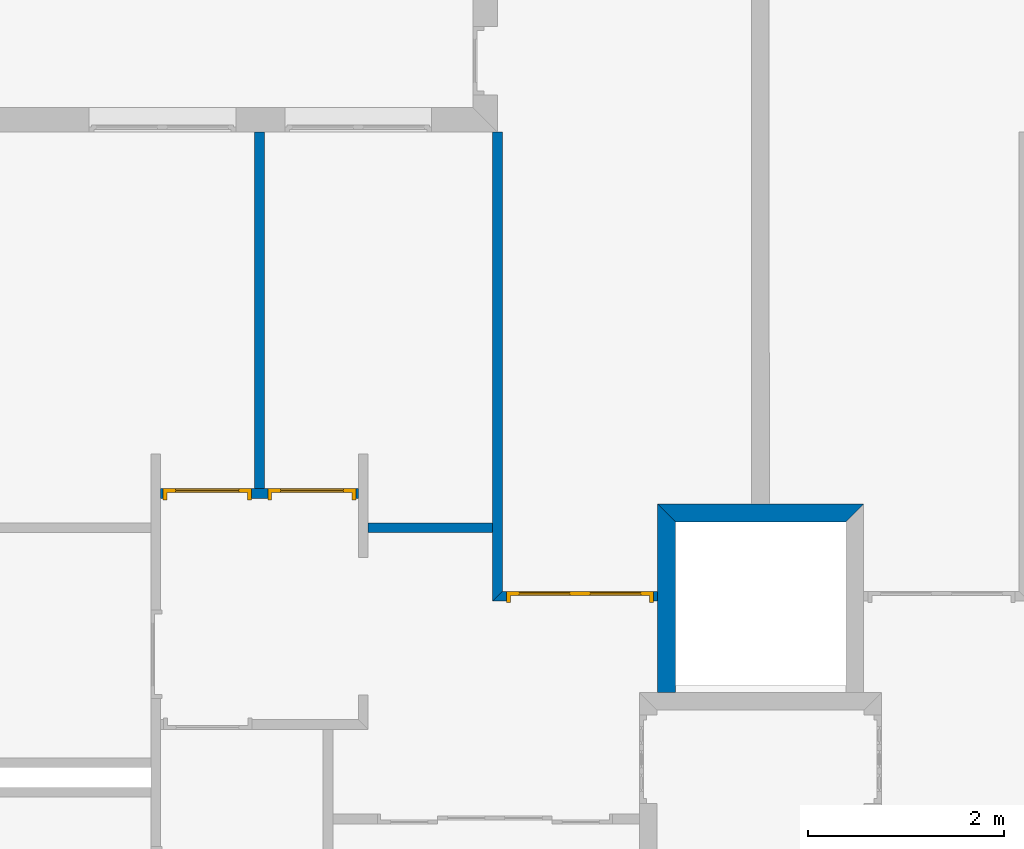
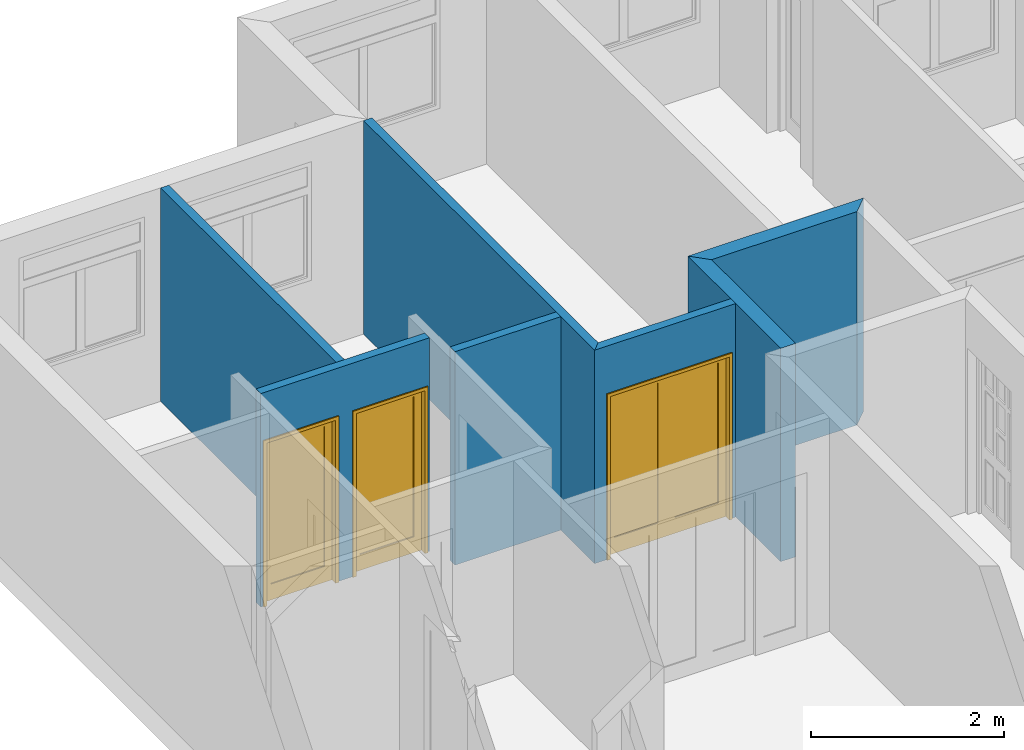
# One storey, part 9 of 12: 7 walls, 3 doors, 3 openings.
"""IFC2X3 building model written with IfcOpenShell, lengths in metres."""

import ifcopenshell
import ifcopenshell.guid

model = None  # the IFC model being written
_history = None  # IfcOwnerHistory: only IFC2X3 demands one
_inside = {}  # id of a spatial element -> (the spatial element, [elements in it])
_under = {}  # id of a project, library or spatial element -> (it, [spatial elements below it])
_declared = {}  # id of a project -> (the project, [libraries it declares])
_typed = {}  # id of a type object -> (the type object, [elements of that type])
_made_of = {}  # id of a material, layer set ... -> (it, [elements and type objects made of it])


def new_model(schema):
    """Start an empty IFC model of exactly this schema.

    Asked for "IFC4X3", IfcOpenShell would pick the latest addendum, in which some entities
    have other attributes; the version numbers below select the first issue.
    IFC2X3 requires an IfcOwnerHistory on every rooted entity: one is made here for all.
    """
    global model, _history
    if schema == "IFC4X3":
        model = ifcopenshell.file(schema_version=(4, 3, 0, 0))
    else:
        model = ifcopenshell.file(schema=schema)
    _inside.clear()
    _under.clear()
    _declared.clear()
    _typed.clear()
    _made_of.clear()
    _history = None
    if model.schema == "IFC2X3":
        org = make("IfcOrganization", Name="unknown")
        user = make(
            "IfcPersonAndOrganization",
            ThePerson=make("IfcPerson", FamilyName="unknown"),
            TheOrganization=org,
        )
        app = make(
            "IfcApplication",
            ApplicationDeveloper=org,
            Version="unknown",
            ApplicationFullName="unknown",
            ApplicationIdentifier="unknown",
        )
        _history = make(
            "IfcOwnerHistory",
            OwningUser=user,
            OwningApplication=app,
            ChangeAction="ADDED",
            CreationDate=0,
        )
    return model


def make(cls, **values):
    """One entity of the class cls with the attributes given. An attribute that is None is left unset."""
    return model.create_entity(
        cls, **{name: value for name, value in values.items() if value is not None}
    )


def entity(cls, *values):
    """Any entity or typed value of the class cls, its attributes in the order of the schema. None: left unset."""
    e = model.create_entity(cls)
    for i, value in enumerate(values):
        if value is not None:
            e[i] = value
    return e


def rooted(cls, **values):
    """An entity with a GlobalId (a new one), such as an element, a storey or a relation."""
    return make(cls, GlobalId=ifcopenshell.guid.new(), OwnerHistory=_history, **values)


def si_unit(unit_type, name, prefix=None):
    """IfcSIUnit, for example si_unit("LENGTHUNIT", "METRE", prefix="MILLI")."""
    return make("IfcSIUnit", UnitType=unit_type, Prefix=prefix, Name=name)


def converted_unit(unit_type, name, factor, base, dimensions=None, offset=None):
    """IfcConversionBasedUnit, such as the inch: factor (a typed value) times the base unit."""
    return make(
        "IfcConversionBasedUnit"
        if offset is None
        else "IfcConversionBasedUnitWithOffset",
        ConversionOffset=offset,
        Dimensions=None
        if dimensions is None
        else entity("IfcDimensionalExponents", *dimensions),
        UnitType=unit_type,
        Name=name,
        ConversionFactor=make(
            "IfcMeasureWithUnit", ValueComponent=factor, UnitComponent=base
        ),
    )


def assignment(units):
    """IfcUnitAssignment: the units of a project."""
    return None if units is None else make("IfcUnitAssignment", Units=units)


def point(xyz):
    """IfcCartesianPoint."""
    return None if xyz is None else make("IfcCartesianPoint", Coordinates=xyz)


def direction(xyz):
    """IfcDirection."""
    return None if xyz is None else make("IfcDirection", DirectionRatios=xyz)


def frame(location, z_axis=None, x_axis=None):
    """IfcAxis2Placement3D, a coordinate frame: its origin and axes. An axis left out is left unset."""
    return make(
        "IfcAxis2Placement3D",
        Location=point(location),
        Axis=direction(z_axis),
        RefDirection=direction(x_axis),
    )


def frame_2d(location, x_axis=None):
    """IfcAxis2Placement2D, a coordinate frame in the plane: its origin and x axis."""
    return make(
        "IfcAxis2Placement2D", Location=point(location), RefDirection=direction(x_axis)
    )


def origin_with_axes():
    """The frame at (0, 0, 0) with the z axis (0, 0, 1) and the x axis (1, 0, 0) written out."""
    return frame((0.0, 0.0, 0.0), z_axis=(0.0, 0.0, 1.0), x_axis=(1.0, 0.0, 0.0))


def place(relative_to, where):
    """IfcLocalPlacement: puts the frame where relative to a parent placement (None: the world)."""
    return make(
        "IfcLocalPlacement", PlacementRelTo=relative_to, RelativePlacement=where
    )


def context(
    kind, dimensions, precision=None, world=None, true_north=None, identifier=None
):
    """IfcGeometricRepresentationContext, for example the 3D "Model" context."""
    return make(
        "IfcGeometricRepresentationContext",
        ContextIdentifier=identifier,
        ContextType=kind,
        CoordinateSpaceDimension=dimensions,
        Precision=precision,
        WorldCoordinateSystem=world,
        TrueNorth=true_north,
    )


def project(units=None, contexts=None):
    """IfcProject with its units and contexts."""
    return rooted(
        "IfcProject",
        Name="project",
        RepresentationContexts=contexts,
        UnitsInContext=assignment(units),
    )


def spatial(cls, under=None, at=None, **own):
    """A site, building, storey or space (cls), placed at a placement, below another one or the project."""
    s = rooted(cls, ObjectPlacement=at, **own)
    if under is not None:
        _under.setdefault(under.id(), (under, []))[1].append(s)
    return s


def polyline(points):
    """IfcPolyline through the points."""
    return make("IfcPolyline", Points=[point(p) for p in points])


def profile(cls, at=None, kind="AREA", **sizes):
    """A parametric profile (cls). Its sizes go by their IFC names, for example OverallWidth=200.0."""
    return make(cls, ProfileType=kind, Position=at, **sizes)


def rectangle(**sizes):
    """IfcRectangleProfileDef."""
    return profile("IfcRectangleProfileDef", **sizes)


def outline(outer, holes=None, kind="AREA"):
    """IfcArbitraryClosedProfileDef: a profile drawn as a closed curve; with holes, ...WithVoids."""
    if holes is None:
        return make("IfcArbitraryClosedProfileDef", ProfileType=kind, OuterCurve=outer)
    return make(
        "IfcArbitraryProfileDefWithVoids",
        ProfileType=kind,
        OuterCurve=outer,
        InnerCurves=holes,
    )


def extrude(swept, where, along, depth):
    """IfcExtrudedAreaSolid: the profile swept, set in the frame where, extruded along a direction by depth."""
    return make(
        "IfcExtrudedAreaSolid",
        SweptArea=swept,
        Position=where,
        ExtrudedDirection=direction(along),
        Depth=depth,
    )


def faces_of(points, faces, orient=None, outer=None):
    """IfcFace entities. A face is a list of loops; a loop is a list of indices into points, from 0.

    orient and outer hold one flag for each loop. By default every Orientation is true, the
    first loop of a face is its IfcFaceOuterBound and the others are IfcFaceBound.
    """
    made = []
    for i, loops in enumerate(faces):
        bounds = []
        for j, loop in enumerate(loops):
            is_outer = j == 0 if outer is None else outer[i][j]
            bounds.append(
                make(
                    "IfcFaceOuterBound" if is_outer else "IfcFaceBound",
                    Bound=make("IfcPolyLoop", Polygon=[points[k] for k in loop]),
                    Orientation=True if orient is None else orient[i][j],
                )
            )
        made.append(make("IfcFace", Bounds=bounds))
    return made


def faceted_brep(points, faces, orient=None, outer=None, voids=None):
    """IfcFacetedBrep: a solid bounded by flat faces; with voids (closed shells), ...WithVoids."""
    shared = [point(p) for p in points]
    hull = make("IfcClosedShell", CfsFaces=faces_of(shared, faces, orient, outer))
    if voids is None:
        return make("IfcFacetedBrep", Outer=hull)
    return make(
        "IfcFacetedBrepWithVoids",
        Outer=hull,
        Voids=[
            make(cls, CfsFaces=faces_of(shared, fs, o, b)) for cls, fs, o, b in voids
        ],
    )


def shape(context_of_items, identifier, shape_type, items):
    """IfcShapeRepresentation: the items that make up one representation, for example the "Body"."""
    return make(
        "IfcShapeRepresentation",
        ContextOfItems=context_of_items,
        RepresentationIdentifier=identifier,
        RepresentationType=shape_type,
        Items=items,
    )


def source(mapping_origin, context_of_items, identifier, shape_type, items):
    """IfcRepresentationMap: a shape defined once, which mapped items show again and again."""
    return make(
        "IfcRepresentationMap",
        MappingOrigin=mapping_origin,
        MappedRepresentation=shape(context_of_items, identifier, shape_type, items),
    )


def transform(
    local_origin,
    x_axis=None,
    y_axis=None,
    z_axis=None,
    scale=None,
    scale2=None,
    scale3=None,
    uniform=True,
):
    """IfcCartesianTransformationOperator3D, or its non-uniform kind. x_axis, y_axis, z_axis: its Axis1, 2, 3."""
    if uniform:
        return make(
            "IfcCartesianTransformationOperator3D",
            Axis1=direction(x_axis),
            Axis2=direction(y_axis),
            LocalOrigin=point(local_origin),
            Scale=scale,
            Axis3=direction(z_axis),
        )
    return make(
        "IfcCartesianTransformationOperator3DnonUniform",
        Axis1=direction(x_axis),
        Axis2=direction(y_axis),
        LocalOrigin=point(local_origin),
        Scale=scale,
        Axis3=direction(z_axis),
        Scale2=scale2,
        Scale3=scale3,
    )


def mapped(mapping_source, mapping_target):
    """IfcMappedItem: shows the shape of a source again, moved by a transform."""
    return make(
        "IfcMappedItem", MappingSource=mapping_source, MappingTarget=mapping_target
    )


def material(Name=None, Category=None):
    """IfcMaterial."""
    return make("IfcMaterial", Name=Name, Category=Category)


def layer(
    of_material, thickness, ventilated=None, Name=None, Category=None, Priority=None
):
    """IfcMaterialLayer: one layer of a wall or slab, of a material (None: an air gap)."""
    return make(
        "IfcMaterialLayer",
        Material=of_material,
        LayerThickness=thickness,
        IsVentilated=ventilated,
        Name=Name,
        Category=Category,
        Priority=Priority,
    )


def layer_set(layers, Name=None):
    """IfcMaterialLayerSet."""
    return make("IfcMaterialLayerSet", MaterialLayers=layers, LayerSetName=Name)


def layer_usage(for_layer_set, set_direction, sense, offset, extent=None):
    """IfcMaterialLayerSetUsage: how a layer set lies in its element."""
    return make(
        "IfcMaterialLayerSetUsage",
        ForLayerSet=for_layer_set,
        LayerSetDirection=set_direction,
        DirectionSense=sense,
        OffsetFromReferenceLine=offset,
        ReferenceExtent=extent,
    )


def made_of(thing, what):
    """Note that an element or type object is made of a material, layer set ...; save() writes the relation."""
    if what is not None:
        _made_of.setdefault(what.id(), (what, []))[1].append(thing)
    return thing


def type_object(cls, material=None, **own):
    """A type object (cls), such as IfcWallType, which elements share."""
    return made_of(rooted(cls, **own), material)


def element(
    cls,
    number,
    at=None,
    inside=None,
    cuts=None,
    type_object=None,
    material=None,
    context=None,
    identifier="Body",
    shape_type=None,
    held_by="IfcProductDefinitionShape",
    body=None,
    shapes=None,
    **own,
):
    """One element of the class cls, such as IfcWall. Its Tag is "e" and its number.

    at: its placement. inside: the storey or other place that contains it. cuts: it is an
    opening in that element (IfcRelVoidsElement). A single representation is given by context,
    identifier, shape_type and body (its items); several are given by shapes. held_by: the class
    of the entity that holds the representations. save() writes the other relations.
    """
    e = rooted(cls, Tag="e%d" % number, ObjectPlacement=at, **own)
    if body is not None:
        shapes = [shape(context, identifier, shape_type, body)]
    if shapes is not None:
        e.Representation = make(held_by, Representations=shapes)
    if inside is not None:
        _inside.setdefault(inside.id(), (inside, []))[1].append(e)
    if cuts is not None:
        rooted(
            "IfcRelVoidsElement", RelatingBuildingElement=cuts, RelatedOpeningElement=e
        )
    if type_object is not None:
        _typed.setdefault(type_object.id(), (type_object, []))[1].append(e)
    return made_of(e, material)


def fill(opening, filler):
    """IfcRelFillsElement: the door or window that sits in an opening."""
    return rooted(
        "IfcRelFillsElement",
        RelatingOpeningElement=opening,
        RelatedBuildingElement=filler,
    )


def aggregate(whole, parts):
    """IfcRelAggregates: a whole, such as a stair, and the parts it consists of."""
    return rooted("IfcRelAggregates", RelatingObject=whole, RelatedObjects=parts)


def save(model, path):
    """Write the relations noted so far, then the file.

    IfcRelAggregates (storeys below a building ...), IfcRelContainedInSpatialStructure (elements
    in a storey), IfcRelDefinesByType, IfcRelAssociatesMaterial and IfcRelDeclares: one each for
    every whole, place, type object, material and project.
    """
    for whole, parts in _under.values():
        aggregate(whole, parts)
    for where, things in _inside.values():
        rooted(
            "IfcRelContainedInSpatialStructure",
            RelatedElements=things,
            RelatingStructure=where,
        )
    for kind, things in _typed.values():
        rooted("IfcRelDefinesByType", RelatedObjects=things, RelatingType=kind)
    for what, things in _made_of.values():
        rooted("IfcRelAssociatesMaterial", RelatedObjects=things, RelatingMaterial=what)
    for by, libraries in _declared.values():
        rooted("IfcRelDeclares", RelatingContext=by, RelatedDefinitions=libraries)
    model.write(path)


model = new_model("IFC2X3")

# Units and contexts
context_of_model = context(None, 3, precision=1e-05, world=origin_with_axes(), true_north=direction((6.123234e-17, 1.0)))
plan_context = context("Plan", 3, precision=1e-05, world=origin_with_axes(), true_north=direction((6.123234e-17, 1.0)))
model_context = context("Model", 3, precision=1e-05, world=origin_with_axes(), true_north=direction((6.123234e-17, 1.0)))
ifc_project = project(units=[si_unit("LENGTHUNIT", "METRE"), si_unit("AREAUNIT", "SQUARE_METRE"), si_unit("VOLUMEUNIT", "CUBIC_METRE"), converted_unit("PLANEANGLEUNIT", "DEGREE", entity("IfcPlaneAngleMeasure", 0.017453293), si_unit("PLANEANGLEUNIT", "RADIAN"), dimensions=[0, 0, 0, 0, 0, 0, 0]), si_unit("SOLIDANGLEUNIT", "STERADIAN"), si_unit("MASSUNIT", "GRAM"), si_unit("TIMEUNIT", "SECOND"), si_unit("THERMODYNAMICTEMPERATUREUNIT", "DEGREE_CELSIUS"), si_unit("LUMINOUSINTENSITYUNIT", "LUMEN")], contexts=[context_of_model, plan_context, model_context])

# Site, building, storey
site_placement = place(None, origin_with_axes())
site = spatial("IfcSite", under=ifc_project, at=site_placement, Name="Por defecto Sitio", CompositionType="ELEMENT")
building_placement = place(site_placement, origin_with_axes())
building = spatial("IfcBuilding", under=site, at=building_placement, Name="Por defecto Edificio", CompositionType="ELEMENT")
storey_placement = place(building_placement, frame((0.0, 0.0, 10.2), z_axis=(0.0, 0.0, 1.0), x_axis=(1.0, 0.0, 0.0)))
storey = spatial("IfcBuildingStorey", under=building, at=storey_placement, Name="Tercera", CompositionType="ELEMENT", Elevation=10.2)

# Walls
ifc_material = material(Name="Ladrillo común")
ifc_layer_1 = layer(ifc_material, 0.18, ventilated="UNKNOWN")
ifc_layer_set_1 = layer_set([ifc_layer_1], Name="Ladrillo común")
ifc_layer_usage_1 = layer_usage(ifc_layer_set_1, "AXIS2", "NEGATIVE", 0.0)
wall_type_1 = type_object("IfcWallType", Name="Ladrillo común", PredefinedType="NOTDEFINED")
wall_1_placement = place(storey_placement, frame((6.965, 9.4007615, 0.0), z_axis=(0.0, 0.0, 1.0), x_axis=(1.0, 0.0, 0.0)))
element("IfcWallStandardCase", 1, at=wall_1_placement, inside=storey, type_object=wall_type_1, material=ifc_layer_usage_1, Name="Muro-012", context=context_of_model, shape_type="SweptSolid", body=[
    extrude(outline(polyline([(0.18, -0.18), (1.92, -0.18), (2.1, 0.0), (-8.8817842e-16, 0.0), (0.18, -0.18)])), origin_with_axes(), (0.0, 0.0, 1.0), 2.7),
])
ifc_layer_usage_2 = layer_usage(ifc_layer_set_1, "AXIS2", "NEGATIVE", 0.0)
wall_2_placement = place(storey_placement, frame((6.965, 7.2976562, 0.0), z_axis=(0.0, 0.0, 1.0), x_axis=(0.0, 1.0, 0.0)))
element("IfcWallStandardCase", 2, at=wall_2_placement, inside=storey, type_object=wall_type_1, material=ifc_layer_usage_2, Name="Muro-011", context=context_of_model, shape_type="SweptSolid", body=[
    extrude(outline(polyline([(0.18, -0.18), (1.9231052, -0.18), (2.1031052, 0.0), (0.18, 8.8817842e-16), (0.18, -0.18)])), origin_with_axes(), (0.0, 0.0, 1.0), 2.7),
])
ifc_layer_2 = layer(ifc_material, 0.1, ventilated="UNKNOWN")
ifc_layer_set_2 = layer_set([ifc_layer_2], Name="Ladrillo común")
ifc_layer_usage_3 = layer_usage(ifc_layer_set_2, "AXIS2", "POSITIVE", 0.0)
wall_type_2 = type_object("IfcWallType", Name="Ladrillo común", PredefinedType="NOTDEFINED")
wall_3_placement = place(storey_placement, frame((5.2781164, 9.2109196, 0.0), z_axis=(0.0, 0.0, 1.0), x_axis=(-1.0, 0.0, 0.0)))
element("IfcWallStandardCase", 3, at=wall_3_placement, inside=storey, type_object=wall_type_2, material=ifc_layer_usage_3, Name="Muro-027", context=context_of_model, shape_type="SweptSolid", body=[
    extrude(outline(polyline([(0.0, 0.0), (1.2679512, 0.0), (1.2679512, 0.1), (0.0, 0.1), (0.0, 0.0)])), origin_with_axes(), (0.0, 0.0, 1.0), 2.7),
])

# Wall, openings, doors
ifc_layer_usage_4 = layer_usage(ifc_layer_set_2, "AXIS2", "POSITIVE", 0.0)
wall_4_placement = place(storey_placement, frame((1.8901652, 9.4609196, 0.0), z_axis=(0.0, 0.0, 1.0), x_axis=(1.0, 0.0, 0.0)))
wall_4 = element("IfcWallStandardCase", 4, at=wall_4_placement, inside=storey, type_object=wall_type_2, material=ifc_layer_usage_4, Name="Muro-038", context=context_of_model, shape_type="SweptSolid", body=[
    extrude(outline(polyline([(0.0, 0.0), (2.02, 0.0), (2.02, 0.1), (0.0, 0.1), (0.0, 0.0)])), origin_with_axes(), (0.0, 0.0, 1.0), 2.7),
])
opening_1_placement = place(wall_4_placement, frame((1.5448045, 0.0, 0.0), z_axis=(0.0, 0.0, 1.0), x_axis=(1.0, 0.0, 0.0)))
opening_1 = element("IfcOpeningElement", 5, at=opening_1_placement, cuts=wall_4, ObjectType="Opening", context=model_context, shape_type="SweptSolid", body=[
    extrude(rectangle(XDim=0.9, YDim=2.1, at=frame_2d((0.0, 1.05), x_axis=(-1.0, 0.0))), frame((0.0, 0.0, 0.0), z_axis=(0.0, 1.0, 0.0), x_axis=(-1.0, 0.0, 0.0)), (0.0, 0.0, 1.0), 0.1),
])
opening_2_placement = place(wall_4_placement, frame((0.47680965, 0.0, 0.0), z_axis=(0.0, 0.0, 1.0), x_axis=(1.0, 0.0, 0.0)))
opening_2 = element("IfcOpeningElement", 6, at=opening_2_placement, cuts=wall_4, ObjectType="Opening", context=model_context, shape_type="SweptSolid", body=[
    extrude(rectangle(XDim=0.9, YDim=2.1, at=frame_2d((1.110223e-16, 1.05), x_axis=(1.0, 0.0))), frame((0.0, 0.0, 0.0), z_axis=(0.0, 1.0, 0.0), x_axis=(-1.0, 0.0, 0.0)), (0.0, 0.0, 1.0), 0.1),
])
door_style_1 = type_object("IfcDoorStyle", Name="P1 12", ConstructionType="NOTDEFINED", OperationType="SINGLE_SWING_RIGHT", ParameterTakesPrecedence=False, Sizeable=False)
shared_shape_1 = source(origin_with_axes(), model_context, "Body", "Brep", [
    faceted_brep([(0.04, 0.075, -2.4492936e-18), (0.04, 0.075, 2.06), (0.04, 0.0, 2.06), (0.04, 0.0, -7.0417191e-18), (0.028, 0.075, 2.06), (0.028, 0.075, -2.4492936e-18), (0.028, 0.115, 2.06), (0.0, 0.115, 2.06), (0.0, 0.0, 2.06), (0.0, 0.0, 0.0), (0.0, 0.115, 3.3744595e-33), (0.028, 0.115, 3.2707143e-33)], [[[0, 1, 2, 3]], [[4, 1, 0, 5]], [[4, 6, 7, 8, 2, 1]], [[9, 3, 2, 8]], [[5, 0, 3, 9, 10, 11]], [[6, 4, 5, 11]], [[6, 11, 10, 7]], [[8, 7, 10, 9]]]),
    faceted_brep([(0.872, 0.075, 2.06), (0.86, 0.075, 2.06), (0.86, 0.0, 2.06), (0.9, 0.0, 2.06), (0.9, 0.115, 2.06), (0.872, 0.115, 2.06), (0.872, 0.075, -2.4492936e-18), (0.86, 0.075, -2.4492936e-18), (0.86, 0.0, -7.0417191e-18), (0.9, 0.0, -7.0417191e-18), (0.9, 0.115, -3.3744595e-33), (0.872, 0.115, -3.1644931e-33)], [[[0, 1, 2, 3, 4, 5]], [[1, 0, 6, 7]], [[1, 7, 8, 2]], [[8, 9, 3, 2]], [[9, 10, 4, 3]], [[11, 5, 4, 10]], [[0, 5, 11, 6]], [[6, 11, 10, 9, 8, 7]]]),
    faceted_brep([(0.028, 0.115, 2.072), (0.028, 0.115, 2.06), (0.0, 0.115, 2.06), (0.0, 0.115, 2.1), (0.9, 0.115, 2.1), (0.9, 0.115, 2.06), (0.872, 0.115, 2.06), (0.872, 0.115, 2.072), (0.028, 0.075, 2.072), (0.028, 0.075, 2.06), (0.04, 0.075, 2.06), (0.04, 0.0, 2.06), (0.0, 0.0, 2.06), (0.0, 0.0, 2.1), (0.9, 0.0, 2.1), (0.9, 0.0, 2.06), (0.872, 0.075, 2.06), (0.86, 0.0, 2.06), (0.86, 0.075, 2.06), (0.872, 0.075, 2.072)], [[[0, 1, 2, 3, 4, 5, 6, 7]], [[1, 0, 8, 9]], [[9, 10, 11, 12, 2, 1]], [[13, 3, 2, 12]], [[14, 4, 3, 13]], [[15, 5, 4, 14]], [[16, 6, 5, 15, 17, 18]], [[7, 6, 16, 19]], [[0, 7, 19, 8]], [[16, 18, 10, 9, 8, 19]], [[10, 18, 17, 11]], [[14, 13, 12, 11, 17, 15]]]),
    faceted_brep([(0.872, 0.115, 0.2), (0.872, 0.075, 0.2), (0.772, 0.075, 0.2), (0.772, 0.115, 0.2), (0.872, 0.115, 1.972), (0.872, 0.075, 1.972), (0.772, 0.075, 1.972), (0.772, 0.115, 1.972)], [[[0, 1, 2, 3]], [[4, 5, 1, 0]], [[1, 5, 6, 2]], [[3, 2, 6, 7]], [[0, 3, 7, 4]], [[7, 6, 5, 4]]]),
    faceted_brep([(0.028, 0.115, 0.2), (0.028, 0.075, 0.2), (0.028, 0.075, 1.972), (0.028, 0.115, 1.972), (0.128, 0.115, 0.2), (0.128, 0.075, 0.2), (0.128, 0.075, 1.972), (0.128, 0.115, 1.972)], [[[0, 1, 2, 3]], [[4, 5, 1, 0]], [[1, 5, 6, 2]], [[3, 2, 6, 7]], [[0, 3, 7, 4]], [[7, 6, 5, 4]]]),
    faceted_brep([(0.872, 0.115, -3.1644931e-33), (0.872, 0.075, -2.4492936e-18), (0.028, 0.075, -2.4492936e-18), (0.028, 0.115, 3.1644931e-33), (0.872, 0.115, 0.2), (0.872, 0.075, 0.2), (0.772, 0.075, 0.2), (0.128, 0.075, 0.2), (0.028, 0.075, 0.2), (0.028, 0.115, 0.2), (0.128, 0.115, 0.2), (0.772, 0.115, 0.2)], [[[0, 1, 2, 3]], [[4, 5, 1, 0]], [[1, 5, 6, 7, 8, 2]], [[3, 2, 8, 9]], [[0, 3, 9, 10, 11, 4]], [[11, 6, 5, 4]], [[10, 7, 6, 11]], [[9, 8, 7, 10]]]),
    faceted_brep([(0.872, 0.115, 2.072), (0.872, 0.075, 2.072), (0.872, 0.075, 1.972), (0.872, 0.115, 1.972), (0.028, 0.115, 2.072), (0.028, 0.075, 2.072), (0.028, 0.075, 1.972), (0.128, 0.075, 1.972), (0.772, 0.075, 1.972), (0.772, 0.115, 1.972), (0.128, 0.115, 1.972), (0.028, 0.115, 1.972)], [[[0, 1, 2, 3]], [[4, 5, 1, 0]], [[1, 5, 6, 7, 8, 2]], [[3, 2, 8, 9]], [[0, 3, 9, 10, 11, 4]], [[11, 6, 5, 4]], [[10, 7, 6, 11]], [[9, 8, 7, 10]]]),
    faceted_brep([(0.772, 0.101, 0.2), (0.772, 0.089, 0.2), (0.128, 0.089, 0.2), (0.128, 0.101, 0.2), (0.772, 0.101, 1.972), (0.772, 0.089, 1.972), (0.128, 0.089, 1.972), (0.128, 0.101, 1.972)], [[[0, 1, 2, 3]], [[4, 5, 1, 0]], [[1, 5, 6, 2]], [[3, 2, 6, 7]], [[0, 3, 7, 4]], [[7, 6, 5, 4]]]),
])
door_1_placement = place(opening_2_placement, frame((-0.45, -0.015, 0.0), z_axis=(0.0, 0.0, 1.0), x_axis=(1.0, 0.0, 0.0)))
door_1 = element("IfcDoor", 7, at=door_1_placement, inside=storey, type_object=door_style_1, Name="P16", OverallHeight=2.1, OverallWidth=0.9, context=model_context, shape_type="MappedRepresentation", body=[
    mapped(shared_shape_1, transform((0.0, 0.0, 0.0), scale=1.0)),
])
fill(opening_2, door_1)
door_style_2 = type_object("IfcDoorStyle", Name="P1 12", ConstructionType="NOTDEFINED", OperationType="SINGLE_SWING_LEFT", ParameterTakesPrecedence=False, Sizeable=False)
shared_shape_2 = source(origin_with_axes(), model_context, "Body", "Brep", [
    faceted_brep([(0.86, 0.075, 0.0), (0.86, 0.0, 0.0), (0.86, 0.0, 2.06), (0.86, 0.075, 2.06), (0.872, 0.075, 0.0), (0.872, 0.115, 0.0), (0.9, 0.115, 0.0), (0.9, 0.0, 0.0), (0.9, 0.0, 2.06), (0.872, 0.075, 2.06), (0.9, 0.115, 2.06), (0.872, 0.115, 2.06)], [[[0, 1, 2, 3]], [[4, 5, 6, 7, 1, 0]], [[7, 8, 2, 1]], [[9, 3, 2, 8, 10, 11]], [[9, 4, 0, 3]], [[11, 5, 4, 9]], [[11, 10, 6, 5]], [[8, 7, 6, 10]]]),
    faceted_brep([(0.028, 0.075, 2.06), (0.028, 0.115, 2.06), (-4.4408921e-16, 0.115, 2.06), (-4.4408921e-16, 0.0, 2.06), (0.04, 0.0, 2.06), (0.04, 0.075, 2.06), (0.028, 0.075, 0.0), (0.028, 0.115, 0.0), (-4.4408921e-16, 0.115, 0.0), (0.0, 0.0, 0.0), (0.04, 0.0, 0.0), (0.04, 0.075, 0.0)], [[[0, 1, 2, 3, 4, 5]], [[0, 6, 7, 1]], [[7, 8, 2, 1]], [[9, 3, 2, 8]], [[10, 4, 3, 9]], [[5, 4, 10, 11]], [[5, 11, 6, 0]], [[6, 11, 10, 9, 8, 7]]]),
    faceted_brep([(0.872, 0.115, 2.072), (0.028, 0.115, 2.072), (0.028, 0.115, 2.06), (-4.4408921e-16, 0.115, 2.06), (-4.4408921e-16, 0.115, 2.1), (0.9, 0.115, 2.1), (0.9, 0.115, 2.06), (0.872, 0.115, 2.06), (0.872, 0.075, 2.072), (0.028, 0.075, 2.072), (0.028, 0.075, 2.06), (0.04, 0.075, 2.06), (0.04, 0.0, 2.06), (-4.4408921e-16, 0.0, 2.06), (-4.4408921e-16, 0.0, 2.1), (0.9, 0.0, 2.1), (0.9, 0.0, 2.06), (0.872, 0.075, 2.06), (0.86, 0.0, 2.06), (0.86, 0.075, 2.06)], [[[0, 1, 2, 3, 4, 5, 6, 7]], [[0, 8, 9, 1]], [[1, 9, 10, 2]], [[10, 11, 12, 13, 3, 2]], [[13, 14, 4, 3]], [[14, 15, 5, 4]], [[15, 16, 6, 5]], [[17, 7, 6, 16, 18, 19]], [[7, 17, 8, 0]], [[10, 9, 8, 17, 19, 11]], [[19, 18, 12, 11]], [[14, 13, 12, 18, 16, 15]]]),
    faceted_brep([(0.028, 0.115, 0.2), (0.128, 0.115, 0.2), (0.128, 0.075, 0.2), (0.028, 0.075, 0.2), (0.028, 0.115, 1.972), (0.128, 0.115, 1.972), (0.128, 0.075, 1.972), (0.028, 0.075, 1.972)], [[[0, 1, 2, 3]], [[0, 4, 5, 1]], [[1, 5, 6, 2]], [[3, 2, 6, 7]], [[4, 0, 3, 7]], [[5, 4, 7, 6]]]),
    faceted_brep([(0.872, 0.115, 0.2), (0.872, 0.115, 1.972), (0.872, 0.075, 1.972), (0.872, 0.075, 0.2), (0.772, 0.115, 0.2), (0.772, 0.115, 1.972), (0.772, 0.075, 1.972), (0.772, 0.075, 0.2)], [[[0, 1, 2, 3]], [[0, 4, 5, 1]], [[1, 5, 6, 2]], [[3, 2, 6, 7]], [[4, 0, 3, 7]], [[5, 4, 7, 6]]]),
    faceted_brep([(0.028, 0.115, 0.0), (0.872, 0.115, 0.0), (0.872, 0.075, 0.0), (0.028, 0.075, 0.0), (0.028, 0.115, 0.2), (0.128, 0.115, 0.2), (0.772, 0.115, 0.2), (0.872, 0.115, 0.2), (0.872, 0.075, 0.2), (0.772, 0.075, 0.2), (0.128, 0.075, 0.2), (0.028, 0.075, 0.2)], [[[0, 1, 2, 3]], [[0, 4, 5, 6, 7, 1]], [[1, 7, 8, 2]], [[3, 2, 8, 9, 10, 11]], [[4, 0, 3, 11]], [[5, 4, 11, 10]], [[6, 5, 10, 9]], [[7, 6, 9, 8]]]),
    faceted_brep([(0.028, 0.115, 2.072), (0.028, 0.115, 1.972), (0.028, 0.075, 1.972), (0.028, 0.075, 2.072), (0.872, 0.115, 2.072), (0.872, 0.115, 1.972), (0.772, 0.115, 1.972), (0.128, 0.115, 1.972), (0.128, 0.075, 1.972), (0.772, 0.075, 1.972), (0.872, 0.075, 1.972), (0.872, 0.075, 2.072)], [[[0, 1, 2, 3]], [[0, 4, 5, 6, 7, 1]], [[1, 7, 8, 2]], [[3, 2, 8, 9, 10, 11]], [[4, 0, 3, 11]], [[5, 4, 11, 10]], [[6, 5, 10, 9]], [[7, 6, 9, 8]]]),
    faceted_brep([(0.128, 0.101, 0.2), (0.772, 0.101, 0.2), (0.772, 0.089, 0.2), (0.128, 0.089, 0.2), (0.128, 0.101, 1.972), (0.772, 0.101, 1.972), (0.772, 0.089, 1.972), (0.128, 0.089, 1.972)], [[[0, 1, 2, 3]], [[0, 4, 5, 1]], [[1, 5, 6, 2]], [[3, 2, 6, 7]], [[4, 0, 3, 7]], [[5, 4, 7, 6]]]),
])
door_2_placement = place(opening_1_placement, frame((-0.45, -0.015, 0.0), z_axis=(0.0, 0.0, 1.0), x_axis=(1.0, 0.0, 0.0)))
door_2 = element("IfcDoor", 8, at=door_2_placement, inside=storey, type_object=door_style_2, Name="P15", OverallHeight=2.1, OverallWidth=0.9, context=model_context, shape_type="MappedRepresentation", body=[
    mapped(shared_shape_2, transform((0.0, 0.0, 0.0), scale=1.0)),
])
fill(opening_1, door_2)

# Walls
ifc_layer_usage_5 = layer_usage(ifc_layer_set_2, "AXIS2", "POSITIVE", 0.0)
wall_5_placement = place(storey_placement, frame((2.9501652, 9.4609196, 0.0), z_axis=(0.0, 0.0, 1.0), x_axis=(0.0, 1.0, 0.0)))
element("IfcWallStandardCase", 9, at=wall_5_placement, inside=storey, type_object=wall_type_2, material=ifc_layer_usage_5, Name="Muro-039", context=context_of_model, shape_type="SweptSolid", body=[
    extrude(outline(polyline([(0.1, 0.0), (3.738253, 0.0), (3.738253, 0.1), (0.1, 0.1), (0.1, 0.0)])), origin_with_axes(), (0.0, 0.0, 1.0), 2.7),
])
ifc_layer_usage_6 = layer_usage(ifc_layer_set_2, "AXIS2", "NEGATIVE", 0.0)
wall_6_placement = place(storey_placement, frame((5.2781164, 8.5109196, 0.0), z_axis=(0.0, 0.0, 1.0), x_axis=(0.0, 1.0, 0.0)))
element("IfcWallStandardCase", 10, at=wall_6_placement, inside=storey, type_object=wall_type_2, material=ifc_layer_usage_6, Name="Muro-031", context=context_of_model, shape_type="SweptSolid", body=[
    extrude(outline(polyline([(0.0, -0.1), (4.688253, -0.1), (4.688253, 0.0), (-0.1, 0.0), (0.0, -0.1)])), origin_with_axes(), (0.0, 0.0, 1.0), 2.7),
])

# Wall, opening, door
ifc_layer_usage_7 = layer_usage(ifc_layer_set_2, "AXIS2", "POSITIVE", 0.0)
wall_7_placement = place(storey_placement, frame((6.965, 8.5109196, 0.0), z_axis=(0.0, 0.0, 1.0), x_axis=(-1.0, 0.0, 0.0)))
wall_7 = element("IfcWallStandardCase", 11, at=wall_7_placement, inside=storey, type_object=wall_type_2, material=ifc_layer_usage_7, Name="Muro-028", context=context_of_model, shape_type="SweptSolid", body=[
    extrude(outline(polyline([(0.0, 0.0), (1.5868836, 0.0), (1.6868836, 0.1), (2.6645353e-15, 0.1), (0.0, 0.0)])), origin_with_axes(), (0.0, 0.0, 1.0), 2.7),
])
opening_3_placement = place(wall_7_placement, frame((0.7934418, 0.0, 0.0), z_axis=(0.0, 0.0, 1.0), x_axis=(1.0, 0.0, 0.0)))
opening_3 = element("IfcOpeningElement", 12, at=opening_3_placement, cuts=wall_7, ObjectType="Opening", context=model_context, shape_type="SweptSolid", body=[
    extrude(rectangle(XDim=1.5, YDim=2.1, at=frame_2d((0.0, 1.05), x_axis=(-1.0, 0.0))), frame((0.0, 0.0, 0.0), z_axis=(0.0, 1.0, 0.0), x_axis=(-1.0, 0.0, 0.0)), (0.0, 0.0, 1.0), 0.1),
])
door_style_3 = type_object("IfcDoorStyle", Name="P2 12", ConstructionType="NOTDEFINED", OperationType="DOUBLE_DOOR_SINGLE_SWING", ParameterTakesPrecedence=False, Sizeable=False)
shared_shape_3 = source(origin_with_axes(), model_context, "Body", "Brep", [
    faceted_brep([(0.04, 0.075, 0.0), (0.04, 0.075, 2.06), (0.04, 0.0, 2.06), (0.04, 0.0, 0.0), (0.028, 0.075, 2.06), (0.028, 0.075, 0.0), (0.028, 0.115, 2.06), (0.0, 0.115, 2.06), (0.0, 0.0, 2.06), (0.0, 0.0, 0.0), (0.0, 0.115, 0.0), (0.028, 0.115, 0.0)], [[[0, 1, 2, 3]], [[4, 1, 0, 5]], [[4, 6, 7, 8, 2, 1]], [[9, 3, 2, 8]], [[5, 0, 3, 9, 10, 11]], [[6, 4, 5, 11]], [[6, 11, 10, 7]], [[8, 7, 10, 9]]]),
    faceted_brep([(1.472, 0.075, 2.06), (1.46, 0.075, 2.06), (1.46, 0.0, 2.06), (1.5, 0.0, 2.06), (1.5, 0.115, 2.06), (1.472, 0.115, 2.06), (1.472, 0.075, 0.0), (1.46, 0.075, 0.0), (1.46, 0.0, 0.0), (1.5, 0.0, 0.0), (1.5, 0.115, 0.0), (1.472, 0.115, 0.0)], [[[0, 1, 2, 3, 4, 5]], [[1, 0, 6, 7]], [[1, 7, 8, 2]], [[8, 9, 3, 2]], [[9, 10, 4, 3]], [[11, 5, 4, 10]], [[0, 5, 11, 6]], [[6, 11, 10, 9, 8, 7]]]),
    faceted_brep([(0.028, 0.115, 2.072), (0.028, 0.115, 2.06), (0.0, 0.115, 2.06), (0.0, 0.115, 2.1), (1.5, 0.115, 2.1), (1.5, 0.115, 2.06), (1.472, 0.115, 2.06), (1.472, 0.115, 2.072), (0.028, 0.075, 2.072), (0.028, 0.075, 2.06), (0.04, 0.075, 2.06), (0.04, 0.0, 2.06), (0.0, 0.0, 2.06), (0.0, 0.0, 2.1), (1.5, 0.0, 2.1), (1.5, 0.0, 2.06), (1.472, 0.075, 2.06), (1.46, 0.0, 2.06), (1.46, 0.075, 2.06), (1.472, 0.075, 2.072)], [[[0, 1, 2, 3, 4, 5, 6, 7]], [[1, 0, 8, 9]], [[9, 10, 11, 12, 2, 1]], [[13, 3, 2, 12]], [[14, 4, 3, 13]], [[15, 5, 4, 14]], [[16, 6, 5, 15, 17, 18]], [[7, 6, 16, 19]], [[0, 7, 19, 8]], [[16, 18, 10, 9, 8, 19]], [[10, 18, 17, 11]], [[14, 13, 12, 11, 17, 15]]]),
    faceted_brep([(1.472, 0.115, 0.2), (1.472, 0.075, 0.2), (1.372, 0.075, 0.2), (1.372, 0.115, 0.2), (1.472, 0.115, 1.972), (1.472, 0.075, 1.972), (1.372, 0.075, 1.972), (1.372, 0.115, 1.972)], [[[0, 1, 2, 3]], [[4, 5, 1, 0]], [[1, 5, 6, 2]], [[3, 2, 6, 7]], [[0, 3, 7, 4]], [[7, 6, 5, 4]]]),
    faceted_brep([(0.751, 0.115, 0.2), (0.751, 0.075, 0.2), (0.751, 0.075, 1.972), (0.751, 0.115, 1.972), (0.851, 0.115, 0.2), (0.851, 0.075, 0.2), (0.851, 0.075, 1.972), (0.851, 0.115, 1.972)], [[[0, 1, 2, 3]], [[4, 5, 1, 0]], [[1, 5, 6, 2]], [[3, 2, 6, 7]], [[0, 3, 7, 4]], [[7, 6, 5, 4]]]),
    faceted_brep([(1.472, 0.115, 0.0), (1.472, 0.075, 0.0), (0.751, 0.075, 0.0), (0.751, 0.115, 0.0), (1.472, 0.115, 0.2), (1.472, 0.075, 0.2), (1.372, 0.075, 0.2), (0.851, 0.075, 0.2), (0.751, 0.075, 0.2), (0.751, 0.115, 0.2), (0.851, 0.115, 0.2), (1.372, 0.115, 0.2)], [[[0, 1, 2, 3]], [[4, 5, 1, 0]], [[1, 5, 6, 7, 8, 2]], [[3, 2, 8, 9]], [[0, 3, 9, 10, 11, 4]], [[11, 6, 5, 4]], [[10, 7, 6, 11]], [[9, 8, 7, 10]]]),
    faceted_brep([(1.472, 0.115, 2.072), (1.472, 0.075, 2.072), (1.472, 0.075, 1.972), (1.472, 0.115, 1.972), (0.751, 0.115, 2.072), (0.751, 0.075, 2.072), (0.751, 0.075, 1.972), (0.851, 0.075, 1.972), (1.372, 0.075, 1.972), (1.372, 0.115, 1.972), (0.851, 0.115, 1.972), (0.751, 0.115, 1.972)], [[[0, 1, 2, 3]], [[4, 5, 1, 0]], [[1, 5, 6, 7, 8, 2]], [[3, 2, 8, 9]], [[0, 3, 9, 10, 11, 4]], [[11, 6, 5, 4]], [[10, 7, 6, 11]], [[9, 8, 7, 10]]]),
    faceted_brep([(1.372, 0.101, 0.2), (1.372, 0.089, 0.2), (0.851, 0.089, 0.2), (0.851, 0.101, 0.2), (1.372, 0.101, 1.972), (1.372, 0.089, 1.972), (0.851, 0.089, 1.972), (0.851, 0.101, 1.972)], [[[0, 1, 2, 3]], [[4, 5, 1, 0]], [[1, 5, 6, 2]], [[3, 2, 6, 7]], [[0, 3, 7, 4]], [[7, 6, 5, 4]]]),
    faceted_brep([(0.028, 0.115, 0.2), (0.128, 0.115, 0.2), (0.128, 0.075, 0.2), (0.028, 0.075, 0.2), (0.028, 0.115, 1.972), (0.128, 0.115, 1.972), (0.128, 0.075, 1.972), (0.028, 0.075, 1.972)], [[[0, 1, 2, 3]], [[0, 4, 5, 1]], [[1, 5, 6, 2]], [[3, 2, 6, 7]], [[4, 0, 3, 7]], [[5, 4, 7, 6]]]),
    faceted_brep([(0.749, 0.115, 0.2), (0.749, 0.115, 1.972), (0.749, 0.075, 1.972), (0.749, 0.075, 0.2), (0.649, 0.115, 0.2), (0.649, 0.115, 1.972), (0.649, 0.075, 1.972), (0.649, 0.075, 0.2)], [[[0, 1, 2, 3]], [[0, 4, 5, 1]], [[1, 5, 6, 2]], [[3, 2, 6, 7]], [[4, 0, 3, 7]], [[5, 4, 7, 6]]]),
    faceted_brep([(0.028, 0.115, 0.0), (0.749, 0.115, 0.0), (0.749, 0.075, 0.0), (0.028, 0.075, 0.0), (0.028, 0.115, 0.2), (0.128, 0.115, 0.2), (0.649, 0.115, 0.2), (0.749, 0.115, 0.2), (0.749, 0.075, 0.2), (0.649, 0.075, 0.2), (0.128, 0.075, 0.2), (0.028, 0.075, 0.2)], [[[0, 1, 2, 3]], [[0, 4, 5, 6, 7, 1]], [[1, 7, 8, 2]], [[3, 2, 8, 9, 10, 11]], [[4, 0, 3, 11]], [[5, 4, 11, 10]], [[6, 5, 10, 9]], [[7, 6, 9, 8]]]),
    faceted_brep([(0.028, 0.115, 2.072), (0.028, 0.115, 1.972), (0.028, 0.075, 1.972), (0.028, 0.075, 2.072), (0.749, 0.115, 2.072), (0.749, 0.115, 1.972), (0.649, 0.115, 1.972), (0.128, 0.115, 1.972), (0.128, 0.075, 1.972), (0.649, 0.075, 1.972), (0.749, 0.075, 1.972), (0.749, 0.075, 2.072)], [[[0, 1, 2, 3]], [[0, 4, 5, 6, 7, 1]], [[1, 7, 8, 2]], [[3, 2, 8, 9, 10, 11]], [[4, 0, 3, 11]], [[5, 4, 11, 10]], [[6, 5, 10, 9]], [[7, 6, 9, 8]]]),
    faceted_brep([(0.128, 0.101, 0.2), (0.649, 0.101, 0.2), (0.649, 0.089, 0.2), (0.128, 0.089, 0.2), (0.128, 0.101, 1.972), (0.649, 0.101, 1.972), (0.649, 0.089, 1.972), (0.128, 0.089, 1.972)], [[[0, 1, 2, 3]], [[0, 4, 5, 1]], [[1, 5, 6, 2]], [[3, 2, 6, 7]], [[4, 0, 3, 7]], [[5, 4, 7, 6]]]),
])
door_3_placement = place(opening_3_placement, frame((0.75, 0.115, 0.0), z_axis=(0.0, 0.0, 1.0), x_axis=(-1.0, 0.0, 0.0)))
door_3 = element("IfcDoor", 13, at=door_3_placement, inside=storey, type_object=door_style_3, Name="P27", OverallHeight=2.1, OverallWidth=1.5, context=model_context, shape_type="MappedRepresentation", body=[
    mapped(shared_shape_3, transform((0.0, 0.0, 0.0), scale=1.0)),
])
fill(opening_3, door_3)

save(model, "model.ifc")
